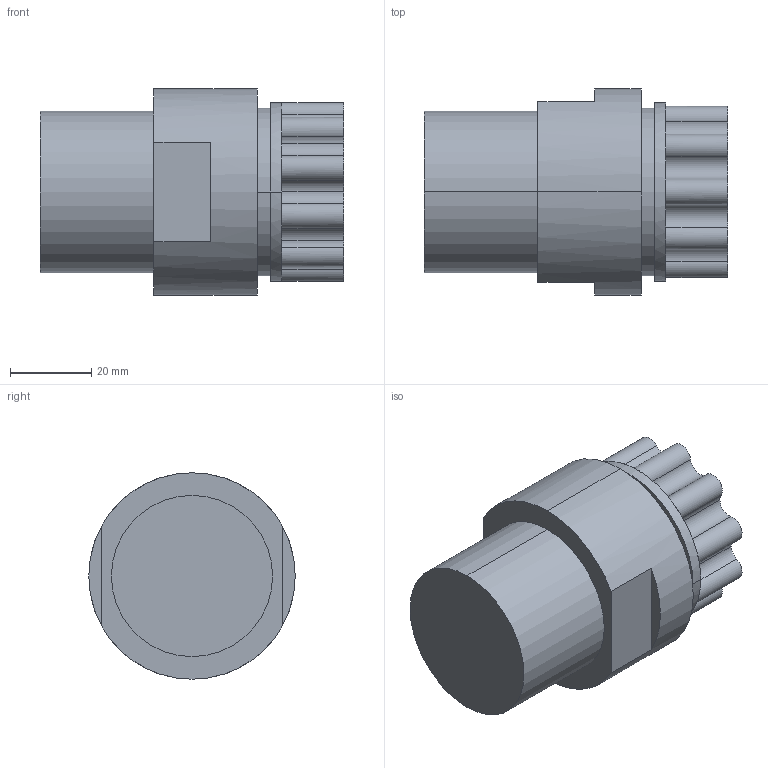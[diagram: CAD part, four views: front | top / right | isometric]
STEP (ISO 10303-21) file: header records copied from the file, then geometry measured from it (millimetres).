
FILE_DESCRIPTION (( 'STEP AP214' ), '1' );
FILE_NAME ('16-synchro-flaresldprt.STEP', '2012-12-03T17:36:01', ( '' ), ( '' ), 'SwSTEP 2.0', 'SolidWorks 2012', '' );
FILE_SCHEMA (( 'AUTOMOTIVE_DESIGN' ));
Length unit declared in the file: inch
Products named in the file (1): 16-synchro-flaresldprt
Bounding box: 74.65 x 50.8 x 50.8 mm (x, y, z)
Volume: 84444.5 mm3; surface area: 20425 mm2
Topology: 1 solids, 2 shells, 66 faces, 159 edges, 102 vertices
Faces by surface type: cylinder 43, plane 23
Entity records: 2078 total; most frequent: DIRECTION 401, CARTESIAN_POINT 328, ORIENTED_EDGE 318, AXIS2_PLACEMENT_3D 175, EDGE_CURVE 159, CIRCLE 108, VERTEX_POINT 102, EDGE_LOOP 71
